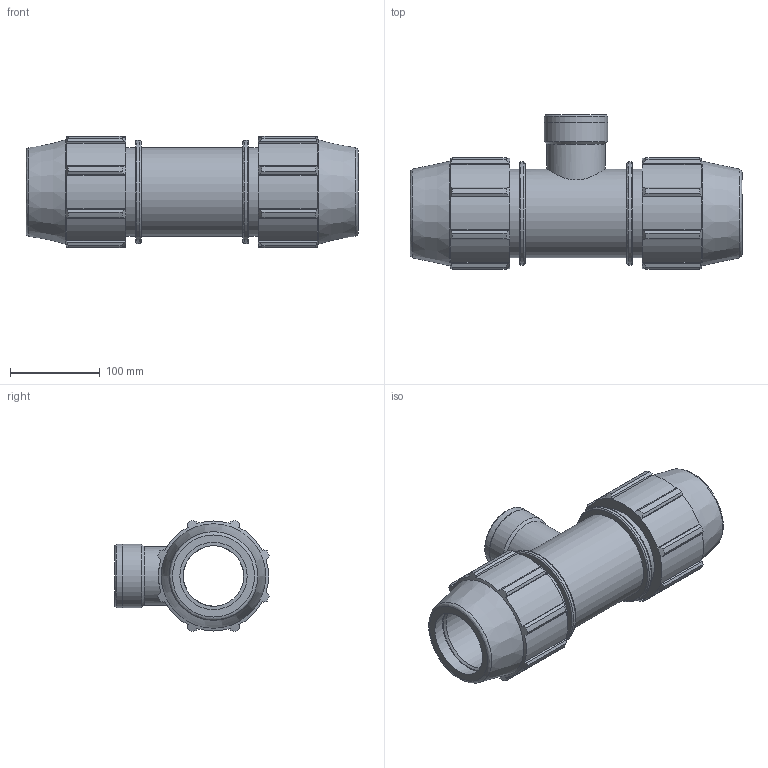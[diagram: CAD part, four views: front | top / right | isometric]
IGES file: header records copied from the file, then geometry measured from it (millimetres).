
Global section: file name: 871400075020_181400075020.ipt; native system: Autodesk Inventor 2015; preprocessor: unknown; author: KIM; date: 20170608.042548; units: millimetre
Bounding box: 370 x 172.1 x 124.2 mm (x, y, z)
Volume: 2078621.9 mm3; surface area: 273690.2 mm2
Topology: 1 solids, 1 shells, 157 faces, 441 edges, 298 vertices
Faces by surface type: plane 79, cylinder 40, cone 23, revolution 15
Full cylindrical faces by diameter (mm): 65.154 x1, 70.82 x2, 99 x3, 114.84 x2
